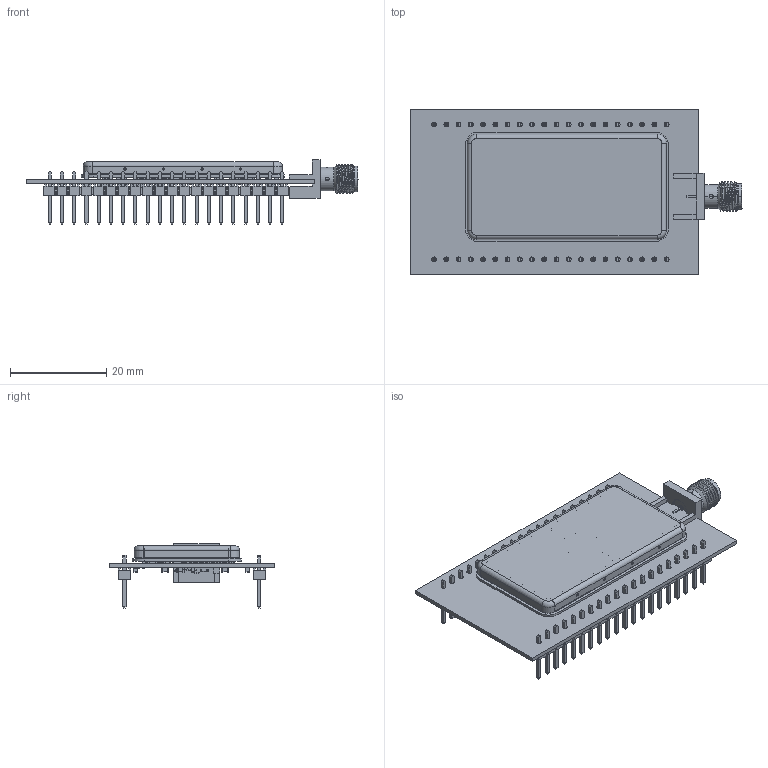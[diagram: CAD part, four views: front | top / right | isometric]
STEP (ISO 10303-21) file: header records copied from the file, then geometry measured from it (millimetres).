
FILE_DESCRIPTION(('Open CASCADE Model'),'2;1');
FILE_NAME('Open CASCADE Shape Model','2022-09-01T08:46:07',('Author'),( 'Open CASCADE'),'Open CASCADE STEP processor 6.8','Open CASCADE 6.8' ,'Unknown');
FILE_SCHEMA(('AUTOMOTIVE_DESIGN { 1 0 10303 214 1 1 1 1 }'));
Length unit declared in the file: millimetre
Products named in the file (135): PCB; Board; Open CASCADE STEP translator 6.8 6.1.1; U1; 6279824000; Extruded; C200; User_Library-Chip_Cap_MLCC_0201_(0603); CN2; SAMTEC_TSW-120-07-G-S; _TSW-120-07-G-S_body; _T-1S6-07-TSW-1-07-20-S; CN1; C38; SB15; 6228351296; SB14; 6228348176; SB13; R101; R0402; 6228350976; R100; L9; IND_MURATA_LQW15AN; C37; 6280088144; 6280087904; C36; C2; CAPC1005X06; C3; C4; C5; C6; CAPC1608X09; C7; C8; C9; C10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
Assembly tree (217 placements, depth 5):
  PCB
    Board
      Open CASCADE STEP translator 6.8 6.1.1
    U1
      6279824000
        Extruded
    C200
      User_Library-Chip_Cap_MLCC_0201_(0603)
    CN2
      SAMTEC_TSW-120-07-G-S
        _TSW-120-07-G-S_body
        _T-1S6-07-TSW-1-07-20-S
    CN1
      SAMTEC_TSW-120-07-G-S
        _TSW-120-07-G-S_body
        _T-1S6-07-TSW-1-07-20-S
    C38
      User_Library-Chip_Cap_MLCC_0201_(0603)
    SB15
      6228351296
        Extruded
    SB14
      6228348176
        Extruded
    SB13
      6228351296
        Extruded
    R101
      R0402
      6228350976
        Extruded
    R100
      R0402
      6228350976
        Extruded
    L9
      IND_MURATA_LQW15AN
    C37
      6280088144  x2
        Extruded
      6280087904
        Extruded
    C36
      6280087904
        Extruded
      6280088144  x2
        Extruded
    C2
      CAPC1005X06
    C3
      User_Library-Chip_Cap_MLCC_0201_(0603)
    C4
      CAPC1005X06
    C5
      User_Library-Chip_Cap_MLCC_0201_(0603)
    C6
      CAPC1608X09
    C7
      CAPC1005X06
    C8
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Bounding box: 68.91 x 34.35 x 13.31 mm (x, y, z)
Volume: 3193.9 mm3; surface area: 11696.2 mm2
Topology: 124 solids, 127 shells, 5913 faces, 14949 edges, 9062 vertices
Faces by surface type: plane 3731, cylinder 1264, bspline 698, sphere 168, torus 34, cone 18
Full cylindrical faces by diameter (mm): 0.094 x1, 0.5 x3, 1 x40
Entity records: 109565 total; most frequent: CARTESIAN_POINT 24171, ORIENTED_EDGE 14229, DIRECTION 13131, EDGE_CURVE 7116, LINE 5261, VECTOR 5261, VERTEX_POINT 4484, AXIS2_PLACEMENT_3D 3935
